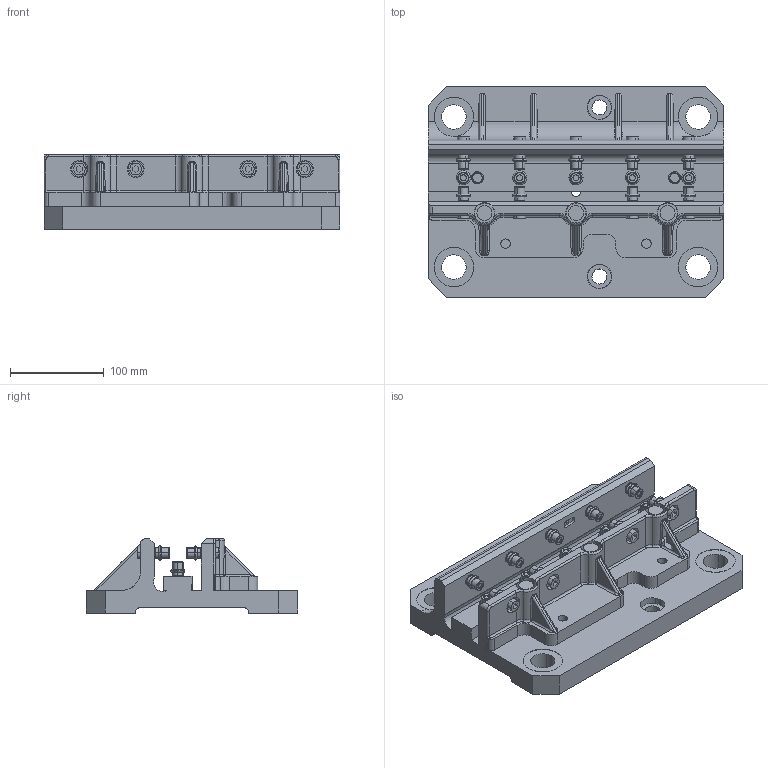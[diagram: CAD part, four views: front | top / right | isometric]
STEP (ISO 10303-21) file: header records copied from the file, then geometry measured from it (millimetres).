
FILE_DESCRIPTION(('STEP AP214'),'1');
FILE_NAME('EGT043_1698065_FLANSCHPLATTE_SW50.CATPart.stp','2015-09-14T13:05:16',('3D-Tool'),(' '),'Spatial InterOp 3D',' ',' ');
FILE_SCHEMA(('automotive_design'));
Length unit declared in the file: millimetre
Products named in the file (1): EGT043_1698065_FLANSCHPLATTE_SW50|PartBody|Assemble.70
Bounding box: 315 x 225 x 79 mm (x, y, z)
Volume: 2246681.6 mm3; surface area: 325026.9 mm2
Topology: 1 solids, 20 shells, 1591 faces, 3862 edges, 2438 vertices
Faces by surface type: cylinder 854, plane 348, cone 214, torus 148, bspline 21, sphere 6
Entity records: 62378 total; most frequent: CARTESIAN_POINT 10634, DIRECTION 9046, ORIENTED_EDGE 7712, EDGE_CURVE 3856, AXIS2_PLACEMENT_3D 3759, VERTEX_POINT 2438, CIRCLE 2188, EDGE_LOOP 1786
